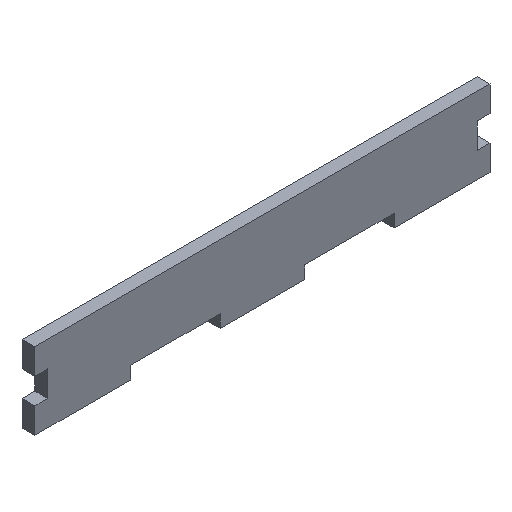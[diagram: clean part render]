
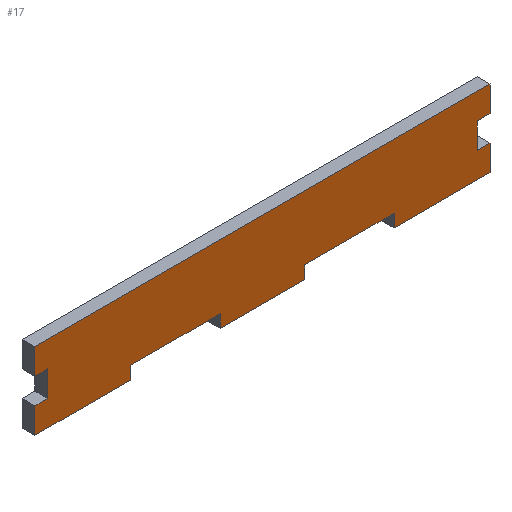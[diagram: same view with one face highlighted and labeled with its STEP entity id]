
A CAD part, isometric view. The second image highlights one B-rep face of the part: STEP entity #17.
In plain terms, the highlighted planar face has unit normal (0, -1, 0).
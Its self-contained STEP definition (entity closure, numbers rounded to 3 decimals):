
#17 = ADVANCED_FACE('',(#18),#180,.F.);
#18 = FACE_BOUND('',#19,.F.);
#19 = EDGE_LOOP('',(#20,#30,#38,#46,#54,#62,#70,#78,#86,#94,#102,#110,
    #118,#126,#134,#142,#150,#158,#166,#174));
#20 = ORIENTED_EDGE('',*,*,#21,.F.);
#21 = EDGE_CURVE('',#22,#24,#26,.T.);
#22 = VERTEX_POINT('',#23);
#23 = CARTESIAN_POINT('',(-35.6,-28.1,0.));
#24 = VERTEX_POINT('',#25);
#25 = CARTESIAN_POINT('',(-20.6,-28.1,0.));
#26 = LINE('',#27,#28);
#27 = CARTESIAN_POINT('',(-35.6,-28.1,0.));
#28 = VECTOR('',#29,1.);
#29 = DIRECTION('',(1.,0.,0.));
#30 = ORIENTED_EDGE('',*,*,#31,.T.);
#31 = EDGE_CURVE('',#22,#32,#34,.T.);
#32 = VERTEX_POINT('',#33);
#33 = CARTESIAN_POINT('',(-35.6,-28.1,4.));
#34 = LINE('',#35,#36);
#35 = CARTESIAN_POINT('',(-35.6,-28.1,0.));
#36 = VECTOR('',#37,1.);
#37 = DIRECTION('',(0.,0.,1.));
#38 = ORIENTED_EDGE('',*,*,#39,.T.);
#39 = EDGE_CURVE('',#32,#40,#42,.T.);
#40 = VERTEX_POINT('',#41);
#41 = CARTESIAN_POINT('',(-33.6,-28.1,4.));
#42 = LINE('',#43,#44);
#43 = CARTESIAN_POINT('',(-35.6,-28.1,4.));
#44 = VECTOR('',#45,1.);
#45 = DIRECTION('',(1.,0.,0.));
#46 = ORIENTED_EDGE('',*,*,#47,.T.);
#47 = EDGE_CURVE('',#40,#48,#50,.T.);
#48 = VERTEX_POINT('',#49);
#49 = CARTESIAN_POINT('',(-33.6,-28.1,8.));
#50 = LINE('',#51,#52);
#51 = CARTESIAN_POINT('',(-33.6,-28.1,4.));
#52 = VECTOR('',#53,1.);
#53 = DIRECTION('',(0.,0.,1.));
#54 = ORIENTED_EDGE('',*,*,#55,.T.);
#55 = EDGE_CURVE('',#48,#56,#58,.T.);
#56 = VERTEX_POINT('',#57);
#57 = CARTESIAN_POINT('',(-35.6,-28.1,8.));
#58 = LINE('',#59,#60);
#59 = CARTESIAN_POINT('',(-33.6,-28.1,8.));
#60 = VECTOR('',#61,1.);
#61 = DIRECTION('',(-1.,0.,0.));
#62 = ORIENTED_EDGE('',*,*,#63,.T.);
#63 = EDGE_CURVE('',#56,#64,#66,.T.);
#64 = VERTEX_POINT('',#65);
#65 = CARTESIAN_POINT('',(-35.6,-28.1,12.));
#66 = LINE('',#67,#68);
#67 = CARTESIAN_POINT('',(-35.6,-28.1,0.));
#68 = VECTOR('',#69,1.);
#69 = DIRECTION('',(0.,0.,1.));
#70 = ORIENTED_EDGE('',*,*,#71,.T.);
#71 = EDGE_CURVE('',#64,#72,#74,.T.);
#72 = VERTEX_POINT('',#73);
#73 = CARTESIAN_POINT('',(35.6,-28.1,12.));
#74 = LINE('',#75,#76);
#75 = CARTESIAN_POINT('',(-35.6,-28.1,12.));
#76 = VECTOR('',#77,1.);
#77 = DIRECTION('',(1.,0.,0.));
#78 = ORIENTED_EDGE('',*,*,#79,.F.);
#79 = EDGE_CURVE('',#80,#72,#82,.T.);
#80 = VERTEX_POINT('',#81);
#81 = CARTESIAN_POINT('',(35.6,-28.1,8.));
#82 = LINE('',#83,#84);
#83 = CARTESIAN_POINT('',(35.6,-28.1,0.));
#84 = VECTOR('',#85,1.);
#85 = DIRECTION('',(0.,0.,1.));
#86 = ORIENTED_EDGE('',*,*,#87,.T.);
#87 = EDGE_CURVE('',#80,#88,#90,.T.);
#88 = VERTEX_POINT('',#89);
#89 = CARTESIAN_POINT('',(33.6,-28.1,8.));
#90 = LINE('',#91,#92);
#91 = CARTESIAN_POINT('',(35.6,-28.1,8.));
#92 = VECTOR('',#93,1.);
#93 = DIRECTION('',(-1.,0.,0.));
#94 = ORIENTED_EDGE('',*,*,#95,.T.);
#95 = EDGE_CURVE('',#88,#96,#98,.T.);
#96 = VERTEX_POINT('',#97);
#97 = CARTESIAN_POINT('',(33.6,-28.1,4.));
#98 = LINE('',#99,#100);
#99 = CARTESIAN_POINT('',(33.6,-28.1,8.));
#100 = VECTOR('',#101,1.);
#101 = DIRECTION('',(0.,0.,-1.));
#102 = ORIENTED_EDGE('',*,*,#103,.T.);
#103 = EDGE_CURVE('',#96,#104,#106,.T.);
#104 = VERTEX_POINT('',#105);
#105 = CARTESIAN_POINT('',(35.6,-28.1,4.));
#106 = LINE('',#107,#108);
#107 = CARTESIAN_POINT('',(33.6,-28.1,4.));
#108 = VECTOR('',#109,1.);
#109 = DIRECTION('',(1.,0.,0.));
#110 = ORIENTED_EDGE('',*,*,#111,.F.);
#111 = EDGE_CURVE('',#112,#104,#114,.T.);
#112 = VERTEX_POINT('',#113);
#113 = CARTESIAN_POINT('',(35.6,-28.1,0.));
#114 = LINE('',#115,#116);
#115 = CARTESIAN_POINT('',(35.6,-28.1,0.));
#116 = VECTOR('',#117,1.);
#117 = DIRECTION('',(0.,0.,1.));
#118 = ORIENTED_EDGE('',*,*,#119,.F.);
#119 = EDGE_CURVE('',#120,#112,#122,.T.);
#120 = VERTEX_POINT('',#121);
#121 = CARTESIAN_POINT('',(20.6,-28.1,0.));
#122 = LINE('',#123,#124);
#123 = CARTESIAN_POINT('',(-35.6,-28.1,0.));
#124 = VECTOR('',#125,1.);
#125 = DIRECTION('',(1.,0.,0.));
#126 = ORIENTED_EDGE('',*,*,#127,.F.);
#127 = EDGE_CURVE('',#128,#120,#130,.T.);
#128 = VERTEX_POINT('',#129);
#129 = CARTESIAN_POINT('',(20.6,-28.1,2.));
#130 = LINE('',#131,#132);
#131 = CARTESIAN_POINT('',(20.6,-28.1,2.));
#132 = VECTOR('',#133,1.);
#133 = DIRECTION('',(0.,0.,-1.));
#134 = ORIENTED_EDGE('',*,*,#135,.F.);
#135 = EDGE_CURVE('',#136,#128,#138,.T.);
#136 = VERTEX_POINT('',#137);
#137 = CARTESIAN_POINT('',(6.6,-28.1,2.));
#138 = LINE('',#139,#140);
#139 = CARTESIAN_POINT('',(6.6,-28.1,2.));
#140 = VECTOR('',#141,1.);
#141 = DIRECTION('',(1.,0.,0.));
#142 = ORIENTED_EDGE('',*,*,#143,.F.);
#143 = EDGE_CURVE('',#144,#136,#146,.T.);
#144 = VERTEX_POINT('',#145);
#145 = CARTESIAN_POINT('',(6.6,-28.1,0.));
#146 = LINE('',#147,#148);
#147 = CARTESIAN_POINT('',(6.6,-28.1,0.));
#148 = VECTOR('',#149,1.);
#149 = DIRECTION('',(0.,0.,1.));
#150 = ORIENTED_EDGE('',*,*,#151,.F.);
#151 = EDGE_CURVE('',#152,#144,#154,.T.);
#152 = VERTEX_POINT('',#153);
#153 = CARTESIAN_POINT('',(-6.6,-28.1,0.));
#154 = LINE('',#155,#156);
#155 = CARTESIAN_POINT('',(-35.6,-28.1,0.));
#156 = VECTOR('',#157,1.);
#157 = DIRECTION('',(1.,0.,0.));
#158 = ORIENTED_EDGE('',*,*,#159,.F.);
#159 = EDGE_CURVE('',#160,#152,#162,.T.);
#160 = VERTEX_POINT('',#161);
#161 = CARTESIAN_POINT('',(-6.6,-28.1,2.));
#162 = LINE('',#163,#164);
#163 = CARTESIAN_POINT('',(-6.6,-28.1,2.));
#164 = VECTOR('',#165,1.);
#165 = DIRECTION('',(0.,0.,-1.));
#166 = ORIENTED_EDGE('',*,*,#167,.F.);
#167 = EDGE_CURVE('',#168,#160,#170,.T.);
#168 = VERTEX_POINT('',#169);
#169 = CARTESIAN_POINT('',(-20.6,-28.1,2.));
#170 = LINE('',#171,#172);
#171 = CARTESIAN_POINT('',(-20.6,-28.1,2.));
#172 = VECTOR('',#173,1.);
#173 = DIRECTION('',(1.,0.,0.));
#174 = ORIENTED_EDGE('',*,*,#175,.F.);
#175 = EDGE_CURVE('',#24,#168,#176,.T.);
#176 = LINE('',#177,#178);
#177 = CARTESIAN_POINT('',(-20.6,-28.1,0.));
#178 = VECTOR('',#179,1.);
#179 = DIRECTION('',(0.,0.,1.));
#180 = PLANE('',#181);
#181 = AXIS2_PLACEMENT_3D('',#182,#183,#184);
#182 = CARTESIAN_POINT('',(-35.6,-28.1,0.));
#183 = DIRECTION('',(0.,1.,0.));
#184 = DIRECTION('',(1.,0.,0.));
